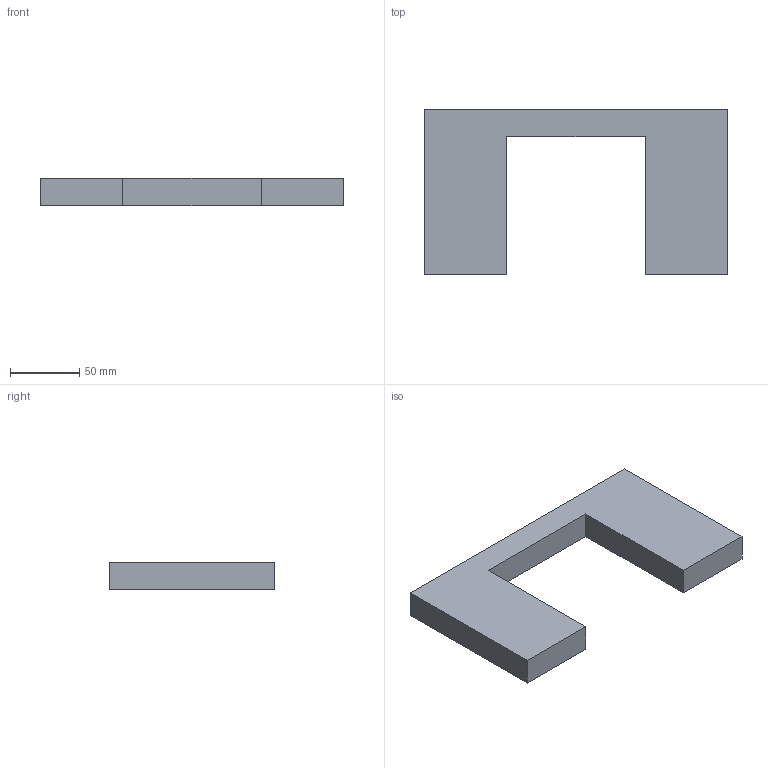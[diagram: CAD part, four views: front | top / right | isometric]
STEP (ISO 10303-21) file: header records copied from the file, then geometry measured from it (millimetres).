
FILE_DESCRIPTION(('Open CASCADE Model'),'2;1');
FILE_NAME('Open CASCADE Shape Model','2026-10-19T10:09:21',('Author'),( 'Open CASCADE'),'Open CASCADE STEP processor 8.0','Open CASCADE 8.0' ,'Unknown');
FILE_SCHEMA(('AUTOMOTIVE_DESIGN { 1 0 10303 214 1 1 1 1 }'));
Length unit declared in the file: millimetre
Products named in the file (1): TC09_CARTABON_SADDLE_220x120x20_P05 113
Bounding box: 220 x 120 x 20 mm (x, y, z)
Volume: 328000 mm3; surface area: 50400 mm2
Topology: 1 solids, 1 shells, 10 faces, 24 edges, 16 vertices
Faces by surface type: plane 10
Entity records: 610 total; most frequent: CARTESIAN_POINT 99, DIRECTION 94, LINE 72, VECTOR 72, ORIENTED_EDGE 48, PCURVE 48, DEFINITIONAL_REPRESENTATION 48, EDGE_CURVE 24
